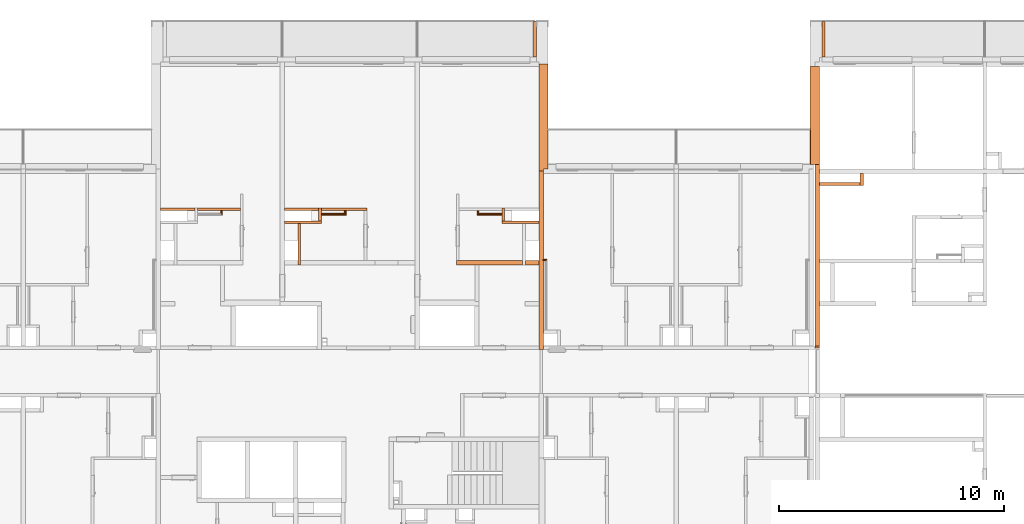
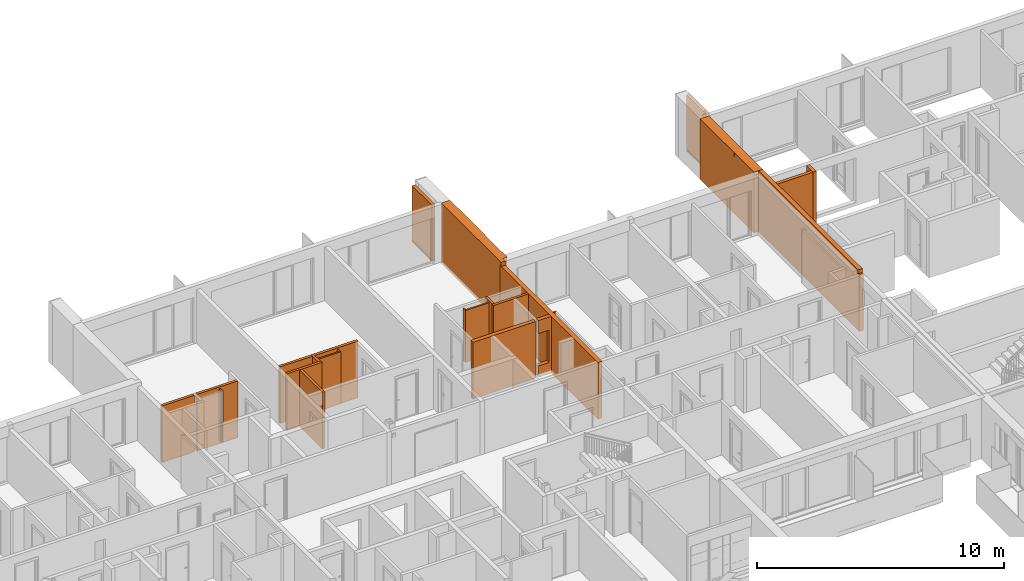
# One storey, part 63 of 66: 22 proxies, 1 opening.
"""IFC2X3 building model written with IfcOpenShell, lengths in millimetres."""

from ifc_helpers import new_model, entity, si_unit, converted_unit, derived_unit, money_unit, direction, frame, origin_with_axes, origin_2d_with_axis, place, context, subcontext, project, spatial, rectangle, extrude, faceted_brep, material, material_list, type_object, element, save


model = new_model("IFC2X3")

# Units and contexts
model_context = context("Model", 3, precision=0.01, world=origin_with_axes(), true_north=direction((0.34421633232, 0.938890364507)))
body_context = subcontext(model_context, "Body", "Model", "MODEL_VIEW")
ifc_project = project(units=[si_unit("LENGTHUNIT", "METRE", prefix="MILLI"), si_unit("AREAUNIT", "SQUARE_METRE"), si_unit("VOLUMEUNIT", "CUBIC_METRE"), converted_unit("PLANEANGLEUNIT", "DEGREE", entity("IfcPlaneAngleMeasure", 0.0174532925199), si_unit("PLANEANGLEUNIT", "RADIAN"), dimensions=[0, 0, 0, 0, 0, 0, 0]), si_unit("SOLIDANGLEUNIT", "STERADIAN"), money_unit("USD"), converted_unit("TIMEUNIT", "Year", entity("IfcTimeMeasure", 31556926.0), si_unit("TIMEUNIT", "SECOND"), dimensions=[0, 0, 1, 0, 0, 0, 0]), si_unit("MASSUNIT", "GRAM", prefix="KILO"), si_unit("THERMODYNAMICTEMPERATUREUNIT", "DEGREE_CELSIUS"), si_unit("LUMINOUSINTENSITYUNIT", "LUMEN"), si_unit("ENERGYUNIT", "JOULE", prefix="MEGA"), derived_unit("THERMALCONDUCTANCEUNIT", [(si_unit("POWERUNIT", "WATT"), 1), (si_unit("LENGTHUNIT", "METRE"), -1), (si_unit("THERMODYNAMICTEMPERATUREUNIT", "KELVIN"), -1)]), derived_unit("SPECIFICHEATCAPACITYUNIT", [(si_unit("ENERGYUNIT", "JOULE"), 1), (si_unit("MASSUNIT", "GRAM", prefix="KILO"), -1), (si_unit("THERMODYNAMICTEMPERATUREUNIT", "KELVIN"), -1)]), derived_unit("MASSDENSITYUNIT", [(si_unit("MASSUNIT", "GRAM", prefix="KILO"), 1), (si_unit("VOLUMEUNIT", "CUBIC_METRE"), -1)])], contexts=[model_context])

# Site, building, storey
site_placement = place(None, origin_with_axes())
site = spatial("IfcSite", under=ifc_project, at=site_placement, Name="USTRONIE MORSKIE", CompositionType="ELEMENT")
building_placement = place(site_placement, origin_with_axes())
building = spatial("IfcBuilding", under=site, at=building_placement, Name="Budynek", CompositionType="ELEMENT")
storey_placement = place(building_placement, frame((0.0, 0.0, 10000.0), z_axis=(0.0, 0.0, 1.0), x_axis=(1.0, 0.0, 0.0)))
storey = spatial("IfcBuildingStorey", under=building, at=storey_placement, Name="PIĘTRO 3", CompositionType="ELEMENT", Elevation=10000.0)

# Proxies
ifc_material_1 = material(Name="Bloczki silikatowe")
building_element_proxy_type_1 = type_object("IfcBuildingElementProxyType", Name="Bloczki silikatowe 120", PredefinedType="NOTDEFINED")
proxy_1_placement = place(storey_placement, frame((386497.920919, 743001.199021, -160.0), z_axis=(0.0, 0.0, 1.0), x_axis=(0.0, -1.0, 0.0)))
element("IfcBuildingElementProxy", 1, at=proxy_1_placement, inside=storey, type_object=building_element_proxy_type_1, material=ifc_material_1, Name="SW-04", context=body_context, shape_type="Brep", body=[
    faceted_brep([(509.999084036, 60.0, 0.0), (509.999084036, -60.0, 0.0), (-59.9999999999, -60.0, 0.0), (-59.9999999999, 60.0, 0.0), (509.999084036, 60.0, 2800.0), (509.999084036, -60.0, 2800.0), (-59.9999999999, -60.0, 2800.0), (-59.9999999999, 60.0, 2800.0)], [[[0, 1, 2, 3]], [[1, 0, 4, 5]], [[1, 5, 6, 2]], [[7, 3, 2, 6]], [[4, 0, 3, 7]], [[5, 4, 7, 6]]]),
])
proxy_2_placement = place(storey_placement, frame((385577.924326, 742431.199937, -160.0), z_axis=(0.0, 0.0, 1.0), x_axis=(0.0, -1.0, 0.0)))
element("IfcBuildingElementProxy", 2, at=proxy_2_placement, inside=storey, type_object=building_element_proxy_type_1, material=ifc_material_1, Name="SW-04", context=body_context, shape_type="Brep", body=[
    faceted_brep([(1890.00090117, 60.0, 0.0), (1890.00090117, -60.0, 0.0), (59.9999999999, -60.0, 0.0), (59.9999999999, 60.0, 0.0), (1890.00090117, 60.0, 2800.0), (1890.00090117, -60.0, 2800.0), (59.9999999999, -60.0, 2800.0), (59.9999999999, 60.0, 2800.0)], [[[0, 1, 2, 3]], [[1, 0, 4, 5]], [[1, 5, 6, 2]], [[7, 3, 2, 6]], [[4, 0, 3, 7]], [[5, 4, 7, 6]]]),
])
proxy_3_placement = place(storey_placement, frame((388517.920919, 743001.199021, -160.0), z_axis=(0.0, 0.0, 1.0), x_axis=(-1.0, 0.0, 0.0)))
element("IfcBuildingElementProxy", 3, at=proxy_3_placement, inside=storey, type_object=building_element_proxy_type_1, material=ifc_material_1, Name="SW-04", context=body_context, shape_type="Brep", body=[
    faceted_brep([(3600.0, -59.9999999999, 2800.0), (2080.0, -59.9999999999, 2800.0), (2080.0, -59.9999999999, 0.0), (3600.0, -59.9999999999, 0.0), (3600.0, 59.9999999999, 2800.0), (2080.0, 59.9999999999, 2800.0), (2080.0, 59.9999999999, 0.0), (3600.0, 59.9999999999, 0.0)], [[[0, 1, 2, 3]], [[4, 5, 1, 0]], [[2, 1, 5, 6]], [[7, 3, 2, 6]], [[7, 4, 0, 3]], [[6, 5, 4, 7]]]),
    faceted_brep([(1960.0, -59.9999999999, 0.0), (1960.0, -59.9999999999, 2800.0), (-60.0, -59.9999999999, 2800.0), (-60.0, -59.9999999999, 0.0), (1960.0, 59.9999999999, 0.0), (1960.0, 59.9999999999, 2800.0), (-60.0, 59.9999999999, 2800.0), (-60.0, 59.9999999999, 0.0)], [[[0, 1, 2, 3]], [[4, 5, 1, 0]], [[5, 6, 2, 1]], [[3, 2, 6, 7]], [[3, 7, 4, 0]], [[7, 6, 5, 4]]]),
])
proxy_4_placement = place(storey_placement, frame((396317.920919, 742431.199937, -160.0), z_axis=(0.0, 0.0, 1.0), x_axis=(-1.0, 0.0, 0.0)))
element("IfcBuildingElementProxy", 4, at=proxy_4_placement, inside=storey, type_object=building_element_proxy_type_1, material=ifc_material_1, Name="SW-04", context=body_context, shape_type="Brep", body=[
    faceted_brep([(1740.0, -59.9999999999, 2800.0), (1740.0, 59.9999999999, 2800.0), (100.00285023, 59.9999999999, 2800.0), (100.002703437, -59.9999999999, 2800.0), (1740.0, -59.9999999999, 0.0), (1740.0, 59.9999999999, 0.0), (100.00285023, 59.9999999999, 0.0), (100.002703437, -59.9999999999, 0.0)], [[[0, 1, 2, 3]], [[1, 0, 4, 5]], [[1, 5, 6, 2]], [[7, 3, 2, 6]], [[4, 0, 3, 7]], [[5, 4, 7, 6]]]),
])
proxy_5_placement = place(storey_placement, frame((383017.920919, 743001.199021, -160.0), z_axis=(0.0, 0.0, 1.0), x_axis=(-1.0, 0.0, 0.0)))
element("IfcBuildingElementProxy", 5, at=proxy_5_placement, inside=storey, type_object=building_element_proxy_type_1, material=ifc_material_1, Name="SW-04", context=body_context, shape_type="Brep", body=[
    faceted_brep([(3600.0, -59.9999999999, 2800.0), (2080.0, -59.9999999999, 2800.0), (2080.0, -59.9999999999, 0.0), (3600.0, -59.9999999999, 0.0), (3600.0, 59.9999999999, 2800.0), (2080.0, 59.9999999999, 2800.0), (2080.0, 59.9999999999, 0.0), (3600.0, 59.9999999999, 0.0)], [[[0, 1, 2, 3]], [[4, 5, 1, 0]], [[2, 1, 5, 6]], [[7, 3, 2, 6]], [[7, 4, 0, 3]], [[6, 5, 4, 7]]]),
    faceted_brep([(1960.0, -59.9999999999, 0.0), (1960.0, -59.9999999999, 2800.0), (60.0, -59.9999999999, 2800.0), (60.0, -59.9999999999, 0.0), (1960.0, 59.9999999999, 0.0), (1960.0, 59.9999999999, 2800.0), (60.0, 59.9999999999, 2800.0), (60.0, 59.9999999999, 0.0)], [[[0, 1, 2, 3]], [[4, 5, 1, 0]], [[5, 6, 2, 1]], [[3, 2, 6, 7]], [[3, 7, 4, 0]], [[7, 6, 5, 4]]]),
])
proxy_6_placement = place(storey_placement, frame((384817.920919, 742431.199937, -160.0), z_axis=(0.0, 0.0, 1.0), x_axis=(1.0, 0.0, 0.0)))
element("IfcBuildingElementProxy", 6, at=proxy_6_placement, inside=storey, type_object=building_element_proxy_type_1, material=ifc_material_1, Name="SW-04", context=body_context, shape_type="Brep", body=[
    faceted_brep([(1740.0, 59.9999999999, 0.0), (1740.0, -59.9999999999, 0.0), (100.0, -59.9999999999, 0.0), (100.0, 59.9999999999, 0.0), (1740.0, 59.9999999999, 2800.0), (1740.0, -59.9999999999, 2800.0), (100.0, -59.9999999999, 2800.0), (100.0, 59.9999999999, 2800.0)], [[[0, 1, 2, 3]], [[1, 0, 4, 5]], [[1, 5, 6, 2]], [[7, 3, 2, 6]], [[4, 0, 3, 7]], [[5, 4, 7, 6]]]),
])
proxy_7_placement = place(storey_placement, frame((394637.920919, 743001.199021, -160.0), z_axis=(0.0, 0.0, 1.0), x_axis=(0.0, -1.0, 0.0)))
element("IfcBuildingElementProxy", 7, at=proxy_7_placement, inside=storey, type_object=building_element_proxy_type_1, material=ifc_material_1, Name="SW-04", context=body_context, shape_type="Brep", body=[
    faceted_brep([(509.999084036, -60.0, 2800.0), (509.999084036, 60.0, 2800.0), (-59.9999999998, 60.0, 2800.0), (-59.9999999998, -60.0, 2800.0), (509.999084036, -60.0, 0.0), (509.999084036, 60.0, 0.0), (-59.9999999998, 60.0, 0.0), (-59.9999999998, -60.0, 0.0)], [[[0, 1, 2, 3]], [[1, 0, 4, 5]], [[1, 5, 6, 2]], [[7, 3, 2, 6]], [[4, 0, 3, 7]], [[5, 4, 7, 6]]]),
])
ifc_material_2 = material(Name="Tynk zewnętrzny")
ifc_material_3 = material(Name="Wełna ELEW")
ifc_material_4 = material(Name="Beton konstrukcyjny B25")
ifc_material_list_1 = material_list([ifc_material_2, ifc_material_3, ifc_material_4])
building_element_proxy_type_2 = type_object("IfcBuildingElementProxyType", Name="20+20 410", PredefinedType="NOTDEFINED")
proxy_8_placement = place(storey_placement, frame((408567.920919, 745001.199036, -160.0), z_axis=(0.0, 0.0, 1.0), x_axis=(0.0, 1.0, 0.0)))
element("IfcBuildingElementProxy", 8, at=proxy_8_placement, inside=storey, type_object=building_element_proxy_type_2, material=ifc_material_list_1, Name="SZ-01", context=body_context, shape_type="Brep", body=[
    faceted_brep([(1599.99509907, 310.0, 3000.0), (1599.99509907, 300.0, 3000.0), (4350.0002527, 300.0, 3000.0), (4350.00026112, 310.0, 3000.0), (1599.99509907, 300.0, 2800.0), (1599.99509907, 310.0, 2800.0), (5.11515736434e-05, 300.0, 2800.0), (0.0, 300.0, 0.0), (4350.0002527, 300.0, 0.0), (4350.00026112, 310.0, 0.0), (0.0, 310.0, 0.0), (6.25622078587e-05, 310.0, 2800.0)], [[[0, 1, 2, 3]], [[4, 1, 0, 5]], [[4, 6, 7, 8, 2, 1]], [[9, 3, 2, 8]], [[5, 0, 3, 9, 10, 11]], [[6, 4, 5, 11]], [[6, 11, 10, 7]], [[10, 9, 8, 7]]]),
    faceted_brep([(0.0, 100.0, 0.0), (4350.00008423, 100.0, 0.0), (4350.00008423, 100.0, 3000.0), (0.0, 100.0, 3000.0), (0.0, 300.0, 0.0), (4350.0002527, 300.0, 0.0), (4350.0002527, 300.0, 3000.0), (0.0, 300.0, 3000.0)], [[[0, 1, 2, 3]], [[4, 5, 1, 0]], [[5, 6, 2, 1]], [[3, 2, 6, 7]], [[7, 4, 0, 3]], [[7, 6, 5, 4]]]),
    faceted_brep([(4349.99991577, -100.0, -8.13678013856e-08), (4349.99991577, -100.0, 3000.0), (0.0, -100.0, 3000.0), (0.0, -100.0, 0.0), (4350.00008423, 100.0, 3000.0), (4350.00008423, 100.0, -4.94591034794e-08), (0.0, 100.0, 3000.0), (0.0, 100.0, 0.0)], [[[0, 1, 2, 3]], [[4, 1, 0, 5]], [[1, 4, 6, 2]], [[7, 3, 2, 6]], [[5, 0, 3, 7]], [[4, 5, 7, 6]]]),
])
ifc_material_list_2 = material_list([ifc_material_4, ifc_material_3, ifc_material_2])
proxy_9_placement = place(storey_placement, frame((396317.920919, 744701.199036, -160.0), z_axis=(0.0, 0.0, 1.0), x_axis=(0.0, 1.0, 0.0)))
element("IfcBuildingElementProxy", 9, at=proxy_9_placement, inside=storey, type_object=building_element_proxy_type_2, material=ifc_material_list_2, Name="SZ-01", context=body_context, shape_type="Brep", body=[
    faceted_brep([(-99.9719477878, 100.0, 3000.0), (-99.9724328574, -100.0, 3000.0), (4750.0, -100.0, 3000.0), (4750.0, 100.0, 3000.0), (-99.9724328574, -100.0, 2800.0), (-99.9719477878, 100.000011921, 2800.0), (0.0, -100.0, 2800.0), (0.0, -100.0, 0.0), (4750.0, -100.0, 0.0), (4750.0, 100.0, 0.0), (0.0, 100.000011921, 0.0), (0.0, 100.000011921, 2800.0)], [[[0, 1, 2, 3]], [[4, 1, 0, 5]], [[1, 4, 6, 7, 8, 2]], [[3, 2, 8, 9]], [[5, 0, 3, 9, 10, 11]], [[4, 5, 11, 6]], [[11, 10, 7, 6]], [[9, 8, 7, 10]]]),
    faceted_brep([(100.000285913, -100.0, 3000.0), (100.000285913, -100.0, 0.0), (100.000285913, -300.00001167, 0.0), (100.000285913, -300.0, 3000.0), (4750.0, -100.0, 0.0), (4750.0, -100.0, 3000.0), (4750.0, -300.0, 0.0), (4750.0, -300.0, 3000.0)], [[[0, 1, 2, 3]], [[4, 1, 0, 5]], [[6, 2, 1, 4]], [[3, 2, 6, 7]], [[5, 0, 3, 7]], [[5, 7, 6, 4]]]),
    faceted_brep([(1899.99509907, -300.0, 3000.0), (1899.99509907, -310.0, 3000.0), (4750.0, -310.0, 3000.0), (4750.0, -300.0, 3000.0), (1899.99509907, -310.0, 2800.0), (1899.99509907, -300.0, 2800.0), (300.01333312, -310.0, 2800.0), (300.01333312, -310.0, 3000.0), (300.000285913, -310.0, 3000.0), (300.000285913, -310.0, 0.0), (4750.0, -310.0, 0.0), (4750.0, -300.0, 0.0), (300.000285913, -300.000005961, 0.0), (300.000285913, -300.0, 3000.0), (300.01334453, -300.0, 3000.0), (300.01334453, -300.0, 2800.0)], [[[0, 1, 2, 3]], [[4, 1, 0, 5]], [[6, 7, 8, 9, 10, 2, 1, 4]], [[3, 2, 10, 11]], [[5, 0, 3, 11, 12, 13, 14, 15]], [[6, 4, 5, 15]], [[14, 7, 6, 15]], [[7, 14, 13, 8]], [[13, 12, 9, 8]], [[10, 9, 12, 11]]]),
])

# Proxy, opening
building_element_proxy_type_3 = type_object("IfcBuildingElementProxyType", Name="Bloczki silikatowe 180", PredefinedType="NOTDEFINED")
proxy_10_placement = place(storey_placement, frame((396317.917408, 740631.199036, -160.0), z_axis=(0.0, 0.0, 1.0), x_axis=(-1.0, 0.0, 0.0)))
proxy_10 = element("IfcBuildingElementProxy", 10, at=proxy_10_placement, inside=storey, type_object=building_element_proxy_type_3, material=ifc_material_1, Name="SW-02", context=body_context, shape_type="Brep", body=[
    faceted_brep([(699.9998961, -90.0, 0.0), (700.0075905, -90.0, 2800.0), (100.006091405, -90.0, 2800.0), (100.00135733, -90.0, 0.0), (699.9998961, 90.0, 0.0), (700.0075905, 90.0, 2800.0), (100.006091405, 90.0, 2800.0), (100.00157752, 90.0, 0.0)], [[[0, 1, 2, 3]], [[4, 5, 1, 0]], [[6, 2, 1, 5]], [[6, 7, 3, 2]], [[3, 7, 4, 0]], [[7, 6, 5, 4]]]),
    faceted_brep([(3760.0060914, -90.0, 0.0), (3760.0060914, -90.0, 2800.0), (819.9998961, -90.0, 2800.0), (819.9998961, -90.0, 0.0), (3760.0060914, 90.0, 0.0), (3760.0060914, 90.0, 2800.0), (819.9998961, 90.0, 2800.0), (819.9998961, 90.0, 0.0)], [[[0, 1, 2, 3]], [[4, 5, 1, 0]], [[5, 6, 2, 1]], [[3, 2, 6, 7]], [[4, 0, 3, 7]], [[7, 6, 5, 4]]]),
])
opening_placement = place(proxy_10_placement, frame((449.998987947, 0.0, 560.0), z_axis=(0.0, 0.0, 1.0), x_axis=(1.0, 0.0, 0.0)))
element("IfcOpeningElement", 11, at=opening_placement, cuts=proxy_10, Name="R.01", context=body_context, shape_type="SweptSolid", body=[
    extrude(rectangle(XDim=500.001816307, YDim=1600.0, at=origin_2d_with_axis()), frame((0.0, 89.9999999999, 800.0), z_axis=(0.0, -1.0, 0.0), x_axis=(1.0, 0.0, 0.0)), (0.0, 0.0, -1.0), 180.0),
    extrude(rectangle(XDim=500.001816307, YDim=1600.0, at=origin_2d_with_axis()), frame((0.0, 89.9999999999, 800.0), z_axis=(0.0, 1.0, 0.0), x_axis=(1.0, 0.0, 0.0)), (0.0, 0.0, -1.0), 180.0),
])

# Proxies
ifc_material_5 = material(Name="Płyta GK")
ifc_material_6 = material(Name="-Pustka powietrzna")
ifc_material_list_3 = material_list([ifc_material_5, ifc_material_5, ifc_material_6])
building_element_proxy_type_4 = type_object("IfcBuildingElementProxyType", Name="330-SD GK 2-warstwy 75", PredefinedType="NOTDEFINED")
proxy_11_placement = place(storey_placement, frame((396317.920919, 740771.202288, -180.0), z_axis=(0.0, 0.0, 1.0), x_axis=(1.0, 0.0, 0.0)))
element("IfcBuildingElementProxy", 12, at=proxy_11_placement, inside=storey, type_object=building_element_proxy_type_4, material=ifc_material_list_3, Name="Ściana-009", context=body_context, shape_type="Brep", body=[
    faceted_brep([(254.977879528, 12.5, 165.0), (254.977879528, 25.0, 165.0), (254.977879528, 25.0, 2820.0), (254.977879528, 12.5, 2820.0), (99.9952231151, 25.0, 165.0), (99.9952078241, 12.5, 165.0), (99.9952231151, 25.0, 2820.0), (99.9952078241, 12.5, 2820.0)], [[[0, 1, 2, 3]], [[4, 1, 0, 5]], [[1, 4, 6, 2]], [[2, 6, 7, 3]], [[5, 0, 3, 7]], [[4, 5, 7, 6]]]),
    faceted_brep([(242.477879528, 0.0, 165.0), (242.477879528, 12.5, 165.0), (242.477879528, 12.5, 2820.0), (242.477879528, 0.0, 2820.0), (99.9952078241, 12.5, 165.0), (99.9951925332, 0.0, 165.0), (99.9952078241, 12.5, 2820.0), (99.9951925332, 0.0, 2820.0)], [[[0, 1, 2, 3]], [[4, 1, 0, 5]], [[1, 4, 6, 2]], [[2, 6, 7, 3]], [[5, 0, 3, 7]], [[4, 5, 7, 6]]]),
    faceted_brep([(229.977879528, -50.0, 180.0), (229.977879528, 0.0, 180.0), (229.977879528, 0.0, 2820.0), (229.977879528, -50.0, 2820.0), (99.9951925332, 0.0, 180.0), (99.9951313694, -50.0, 180.0), (99.9951925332, 0.0, 2820.0), (99.9951313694, -50.0, 2820.0)], [[[0, 1, 2, 3]], [[4, 1, 0, 5]], [[1, 4, 6, 2]], [[2, 6, 7, 3]], [[5, 0, 3, 7]], [[4, 5, 7, 6]]]),
])
ifc_material_list_4 = material_list([ifc_material_6, ifc_material_5, ifc_material_5])
proxy_12_placement = place(storey_placement, frame((387632.920919, 742771.199021, -160.0), z_axis=(0.0, 0.0, 1.0), x_axis=(0.0, 1.0, 0.0)))
element("IfcBuildingElementProxy", 13, at=proxy_12_placement, inside=storey, type_object=building_element_proxy_type_4, material=ifc_material_list_4, Name="Ściana-009", context=body_context, shape_type="Brep", body=[
    faceted_brep([(50.0, 0.0, 160.0), (170.0, 0.0, 160.0), (170.0, 0.0, 2710.0), (50.0, 0.0, 2710.0), (170.0, 50.0, 160.0), (50.0, 50.0, 160.0), (170.0, 50.0, 2710.0), (50.0, 50.0, 2710.0)], [[[0, 1, 2, 3]], [[4, 1, 0, 5]], [[1, 4, 6, 2]], [[2, 6, 7, 3]], [[5, 0, 3, 7]], [[4, 5, 7, 6]]]),
    faceted_brep([(0.0, -12.5, 145.0), (170.0, -12.5, 145.0), (170.0, -12.5, 2710.0), (0.0, -12.5, 2710.0), (170.0, 0.0, 145.0), (0.0, 0.0, 145.0), (170.0, 0.0, 2710.0), (0.0, 0.0, 2710.0)], [[[0, 1, 2, 3]], [[4, 1, 0, 5]], [[1, 4, 6, 2]], [[2, 6, 7, 3]], [[5, 0, 3, 7]], [[4, 5, 7, 6]]]),
    faceted_brep([(-12.5, -25.0, 145.0), (170.0, -25.0, 145.0), (170.0, -25.0, 2710.0), (-12.5, -25.0, 2710.0), (170.0, -12.5, 145.0), (-12.5, -12.5, 145.0), (170.0, -12.5, 2710.0), (-12.5, -12.5, 2710.0)], [[[0, 1, 2, 3]], [[4, 1, 0, 5]], [[1, 4, 6, 2]], [[2, 6, 7, 3]], [[5, 0, 3, 7]], [[4, 5, 7, 6]]]),
])
proxy_13_placement = place(storey_placement, frame((387632.920919, 742771.199021, -160.0), z_axis=(0.0, 0.0, 1.0), x_axis=(-1.0, 0.0, 0.0)))
element("IfcBuildingElementProxy", 14, at=proxy_13_placement, inside=storey, type_object=building_element_proxy_type_4, material=ifc_material_list_3, Name="Ściana-009", context=body_context, shape_type="Brep", body=[
    faceted_brep([(-25.0, 25.0, 145.0), (-25.0, 12.5, 145.0), (-25.0, 12.5, 2710.0), (-25.0, 25.0, 2710.0), (1075.0, 12.5, 145.0), (1075.0, 25.0, 145.0), (1075.0, 12.5, 2710.0), (1075.0, 25.0, 2710.0)], [[[0, 1, 2, 3]], [[4, 1, 0, 5]], [[1, 4, 6, 2]], [[6, 7, 3, 2]], [[5, 0, 3, 7]], [[4, 5, 7, 6]]]),
    faceted_brep([(-12.5, 12.5, 145.0), (-12.5, 0.0, 145.0), (-12.5, 0.0, 2710.0), (-12.5, 12.5, 2710.0), (1075.0, 0.0, 145.0), (1075.0, 12.5, 145.0), (1075.0, 0.0, 2710.0), (1075.0, 12.5, 2710.0)], [[[0, 1, 2, 3]], [[4, 1, 0, 5]], [[1, 4, 6, 2]], [[6, 7, 3, 2]], [[5, 0, 3, 7]], [[4, 5, 7, 6]]]),
    faceted_brep([(0.0, 0.0, 160.0), (0.0, -50.0, 160.0), (0.0, -50.0, 2710.0), (0.0, 0.0, 2710.0), (1075.0, -50.0, 160.0), (1075.0, 0.0, 160.0), (1075.0, -50.0, 2710.0), (1075.0, 0.0, 2710.0)], [[[0, 1, 2, 3]], [[4, 1, 0, 5]], [[1, 4, 6, 2]], [[6, 7, 3, 2]], [[5, 0, 3, 7]], [[4, 5, 7, 6]]]),
])
proxy_14_placement = place(storey_placement, frame((382132.920919, 742771.199021, -160.0), z_axis=(0.0, 0.0, 1.0), x_axis=(0.0, 1.0, 0.0)))
element("IfcBuildingElementProxy", 15, at=proxy_14_placement, inside=storey, type_object=building_element_proxy_type_4, material=ifc_material_list_4, Name="Ściana-009", context=body_context, shape_type="Brep", body=[
    faceted_brep([(50.0, 0.0, 160.0), (170.0, 0.0, 160.0), (170.0, 0.0, 2710.0), (50.0, 0.0, 2710.0), (170.0, 50.0, 160.0), (50.0, 50.0, 160.0), (170.0, 50.0, 2710.0), (50.0, 50.0, 2710.0)], [[[0, 1, 2, 3]], [[4, 1, 0, 5]], [[1, 4, 6, 2]], [[2, 6, 7, 3]], [[5, 0, 3, 7]], [[4, 5, 7, 6]]]),
    faceted_brep([(0.0, -12.5, 145.0), (170.0, -12.5, 145.0), (170.0, -12.5, 2710.0), (0.0, -12.5, 2710.0), (170.0, 0.0, 145.0), (0.0, 0.0, 145.0), (170.0, 0.0, 2710.0), (0.0, 0.0, 2710.0)], [[[0, 1, 2, 3]], [[4, 1, 0, 5]], [[1, 4, 6, 2]], [[2, 6, 7, 3]], [[5, 0, 3, 7]], [[4, 5, 7, 6]]]),
    faceted_brep([(-12.5, -25.0, 145.0), (170.0, -25.0, 145.0), (170.0, -25.0, 2710.0), (-12.5, -25.0, 2710.0), (170.0, -12.5, 145.0), (-12.5, -12.5, 145.0), (170.0, -12.5, 2710.0), (-12.5, -12.5, 2710.0)], [[[0, 1, 2, 3]], [[4, 1, 0, 5]], [[1, 4, 6, 2]], [[2, 6, 7, 3]], [[5, 0, 3, 7]], [[4, 5, 7, 6]]]),
])
proxy_15_placement = place(storey_placement, frame((393502.920919, 742771.199021, -160.0), z_axis=(0.0, 0.0, 1.0), x_axis=(0.0, 1.0, 0.0)))
element("IfcBuildingElementProxy", 16, at=proxy_15_placement, inside=storey, type_object=building_element_proxy_type_4, material=ifc_material_list_3, Name="Ściana-009", context=body_context, shape_type="Brep", body=[
    faceted_brep([(-12.5, 12.5, 145.0), (170.0, 12.5, 145.0), (170.0, 12.5, 2710.0), (-12.5, 12.5, 2710.0), (170.0, 25.0, 145.0), (-12.5, 25.0, 145.0), (170.0, 25.0, 2710.0), (-12.5, 25.0, 2710.0)], [[[0, 1, 2, 3]], [[4, 1, 0, 5]], [[1, 4, 6, 2]], [[2, 6, 7, 3]], [[5, 0, 3, 7]], [[4, 5, 7, 6]]]),
    faceted_brep([(0.0, 0.0, 145.0), (170.0, 0.0, 145.0), (170.0, 0.0, 2710.0), (0.0, 0.0, 2710.0), (170.0, 12.5, 145.0), (0.0, 12.5, 145.0), (170.0, 12.5, 2710.0), (0.0, 12.5, 2710.0)], [[[0, 1, 2, 3]], [[4, 1, 0, 5]], [[1, 4, 6, 2]], [[2, 6, 7, 3]], [[5, 0, 3, 7]], [[4, 5, 7, 6]]]),
    faceted_brep([(50.0, -50.0, 160.0), (170.0, -50.0, 160.0), (170.0, -50.0, 2710.0), (50.0, -50.0, 2710.0), (170.0, 0.0, 160.0), (50.0, 0.0, 160.0), (170.0, 0.0, 2710.0), (50.0, 0.0, 2710.0)], [[[0, 1, 2, 3]], [[4, 1, 0, 5]], [[1, 4, 6, 2]], [[2, 6, 7, 3]], [[5, 0, 3, 7]], [[4, 5, 7, 6]]]),
])
proxy_16_placement = place(storey_placement, frame((393502.920919, 742771.199021, -160.0), z_axis=(0.0, 0.0, 1.0), x_axis=(1.0, 0.0, 0.0)))
element("IfcBuildingElementProxy", 17, at=proxy_16_placement, inside=storey, type_object=building_element_proxy_type_4, material=ifc_material_list_4, Name="Ściana-009", context=body_context, shape_type="Brep", body=[
    faceted_brep([(1075.0, 0.0, 160.0), (1075.0, 50.0, 160.0), (1075.0, 50.0, 2710.0), (1075.0, 0.0, 2710.0), (0.0, 50.0, 160.0), (0.0, 0.0, 160.0), (0.0, 50.0, 2710.0), (0.0, 0.0, 2710.0)], [[[0, 1, 2, 3]], [[4, 1, 0, 5]], [[1, 4, 6, 2]], [[3, 2, 6, 7]], [[5, 0, 3, 7]], [[4, 5, 7, 6]]]),
    faceted_brep([(1075.0, -12.5, 145.0), (1075.0, 0.0, 145.0), (1075.0, 0.0, 2710.0), (1075.0, -12.5, 2710.0), (-12.5, 0.0, 145.0), (-12.5, -12.5, 145.0), (-12.5, 0.0, 2710.0), (-12.5, -12.5, 2710.0)], [[[0, 1, 2, 3]], [[4, 1, 0, 5]], [[1, 4, 6, 2]], [[3, 2, 6, 7]], [[5, 0, 3, 7]], [[4, 5, 7, 6]]]),
    faceted_brep([(1075.0, -25.0, 145.0), (1075.0, -12.5, 145.0), (1075.0, -12.5, 2710.0), (1075.0, -25.0, 2710.0), (-25.0, -12.5, 145.0), (-25.0, -25.0, 145.0), (-25.0, -12.5, 2710.0), (-25.0, -25.0, 2710.0)], [[[0, 1, 2, 3]], [[4, 1, 0, 5]], [[1, 4, 6, 2]], [[3, 2, 6, 7]], [[5, 0, 3, 7]], [[4, 5, 7, 6]]]),
])
building_element_proxy_type_5 = type_object("IfcBuildingElementProxyType", Name="Bloczki silikatowe 150", PredefinedType="NOTDEFINED")
proxy_17_placement = place(storey_placement, frame((410537.940088, 744141.199036, -160.0), z_axis=(0.0, 0.0, 1.0), x_axis=(0.0, 1.0, 0.0)))
element("IfcBuildingElementProxy", 18, at=proxy_17_placement, inside=storey, type_object=building_element_proxy_type_5, material=ifc_material_1, Name="SW-03", context=body_context, shape_type="Brep", body=[
    faceted_brep([(459.999999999, -90.0, 2800.0), (459.999999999, 60.0, 2800.0), (-90.0, 60.0, 2800.0), (-90.0, -90.0, 2800.0), (459.999999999, -90.0, 0.0), (459.999999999, 60.0, 0.0), (-90.0, 60.0, 0.0), (-90.0, -90.0, 0.0)], [[[0, 1, 2, 3]], [[1, 0, 4, 5]], [[1, 5, 6, 2]], [[7, 3, 2, 6]], [[4, 0, 3, 7]], [[5, 4, 7, 6]]]),
])
proxy_18_placement = place(storey_placement, frame((410537.940088, 744141.199036, -160.0), z_axis=(0.0, 0.0, 1.0), x_axis=(-1.0, 0.0, 0.0)))
element("IfcBuildingElementProxy", 19, at=proxy_18_placement, inside=storey, type_object=building_element_proxy_type_5, material=ifc_material_1, Name="SW-03", context=body_context, shape_type="Brep", body=[
    faceted_brep([(1870.01916874, 90.0, 0.0), (1870.01916874, -59.9999999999, 0.0), (60.0, -59.9999999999, 0.0), (60.0, 90.0, 0.0), (1870.01916874, 90.0, 2800.0), (1870.01916874, -59.9999999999, 2800.0), (60.0, -59.9999999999, 2800.0), (60.0, 90.0, 2800.0)], [[[0, 1, 2, 3]], [[1, 0, 4, 5]], [[1, 5, 6, 2]], [[7, 3, 2, 6]], [[4, 0, 3, 7]], [[5, 4, 7, 6]]]),
])
building_element_proxy_type_6 = type_object("IfcBuildingElementProxyType", Name="Beton konstrukcyjny B25 200", PredefinedType="NOTDEFINED")
proxy_19_placement = place(storey_placement, frame((396317.911316, 736851.199036, -160.0), z_axis=(0.0, 0.0, 1.0), x_axis=(1.2232750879e-06, 0.999999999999, 0.0)))
element("IfcBuildingElementProxy", 20, at=proxy_19_placement, inside=storey, type_object=building_element_proxy_type_6, material=ifc_material_4, Name="SW-01", context=body_context, shape_type="Brep", body=[
    faceted_brep([(7850.00000001, -100.0, 0.0), (-79.9998776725, -100.0, 0.0), (-80.0001223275, 100.0, 0.0), (7850.00000001, 100.0, 0.0), (7850.00000001, -100.0, 2800.0), (-79.9998776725, -100.0, 2800.0), (-80.0001223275, 100.0, 2800.0), (7850.00000001, 100.0, 2800.0)], [[[0, 1, 2, 3]], [[4, 5, 1, 0]], [[6, 2, 1, 5]], [[3, 2, 6, 7]], [[7, 4, 0, 3]], [[7, 6, 5, 4]]]),
])
proxy_20_placement = place(storey_placement, frame((408567.920919, 745001.199036, -160.0), z_axis=(0.0, 0.0, 1.0), x_axis=(0.0, -1.0, 0.0)))
element("IfcBuildingElementProxy", 21, at=proxy_20_placement, inside=storey, type_object=building_element_proxy_type_6, material=ifc_material_4, Name="SW-01", context=body_context, shape_type="Brep", body=[
    faceted_brep([(0.0, -100.0, 3000.0), (8070.0, -100.0, 3000.0), (8070.0, 100.0, 3000.0), (0.0, 100.0, 3000.0), (8150.0, -100.0, 2800.0), (8070.0, -100.0, 2800.0), (0.0, -100.0, 0.0), (8150.0, -100.0, 0.0), (8070.0, 100.0, 2800.0), (8150.0, 100.0, 2800.0), (8150.0, 100.0, 0.0), (0.0, 100.0, 0.0)], [[[0, 1, 2, 3]], [[4, 5, 1, 0, 6, 7]], [[5, 8, 2, 1]], [[2, 8, 9, 10, 11, 3]], [[11, 6, 0, 3]], [[4, 9, 8, 5]], [[10, 7, 6, 11]], [[10, 9, 4, 7]]]),
])
ifc_material_7 = material(Name="Laminat")
building_element_proxy_type_7 = type_object("IfcBuildingElementProxyType", Name="Laminat 150", PredefinedType="NOTDEFINED")
proxy_21_placement = place(storey_placement, frame((408852.787991, 749761.04617, -160.0), z_axis=(0.0, 0.0, 1.0), x_axis=(-9.14543759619e-06, 0.999999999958, 0.0)))
element("IfcBuildingElementProxy", 22, at=proxy_21_placement, inside=storey, type_object=building_element_proxy_type_7, material=ifc_material_7, Name="SW-03", context=body_context, shape_type="Brep", body=[
    faceted_brep([(0.0, -75.0, 9.99999740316), (0.0, 75.0, 9.99999742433), (1589.99972369, 75.0, 10.0000009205), (1589.99446794, -75.0, 9.99999972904), (0.0, -75.0, 2789.99999183), (-0.000681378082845, 74.9999999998, 2789.99999183), (1589.99446794, 74.9999999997, 2789.99999183), (1547.49980813, 75.0, 84.9999951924), (1547.49980813, 75.0, 14.9999951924), (1572.49971536, 75.0, 14.9999951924), (1572.49971536, 75.0, 109.999995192), (4.99980812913, 75.0, 109.999995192), (4.99980812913, 75.0, 84.9999951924), (1589.99446794, -75.0, 2789.99999183), (1572.49971536, -75.0, 14.9999951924), (1547.49980813, -75.0, 14.9999951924), (1547.49980813, -75.0, 84.9999951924), (4.99980812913, -75.0, 84.9999951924), (4.99980812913, -75.0, 109.999995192), (1572.49971536, -75.0, 109.999995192)], [[[0, 1, 2, 3]], [[4, 5, 1, 0]], [[2, 1, 5, 6], [7, 8, 9, 10, 11, 12]], [[3, 2, 6, 13]], [[0, 3, 13, 4], [14, 15, 16, 17, 18, 19]], [[13, 6, 5, 4]], [[15, 8, 7, 16]], [[14, 9, 8, 15]], [[19, 10, 9, 14]], [[18, 11, 10, 19]], [[17, 12, 11, 18]], [[16, 7, 12, 17]]]),
])
proxy_22_placement = place(storey_placement, frame((396032.78799, 749761.196429, -160.0), z_axis=(0.0, 0.0, 1.0), x_axis=(-9.14543764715e-06, 0.999999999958, 0.0)))
element("IfcBuildingElementProxy", 23, at=proxy_22_placement, inside=storey, type_object=building_element_proxy_type_7, material=ifc_material_7, Name="SW-03", context=body_context, shape_type="Brep", body=[
    faceted_brep([(0.0, -75.0, 9.99999623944), (0.0, 75.0, 9.99999510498), (1589.99972369, 75.0, 10.0000009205), (1589.99972369, -75.0, 10.0000009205), (-0.000681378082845, -75.0000000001, 2789.99999183), (0.0, 75.0, 2789.99999183), (1589.99981684, 75.0, 2789.99999183), (4.99980812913, 75.0, 109.999995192), (4.99980812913, 75.0, 84.9999951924), (1547.49980813, 75.0, 84.9999951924), (1547.49980813, 75.0, 14.9999951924), (1572.49971536, 75.0, 14.9999951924), (1572.49971536, 75.0, 109.999995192), (1589.99981684, -75.0, 2789.99999183), (1547.49980813, -75.0, 84.9999951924), (4.99980812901, -75.0, 84.9999951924), (4.99980812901, -75.0, 109.999995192), (1572.49971536, -75.0, 109.999995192), (1572.49971536, -75.0, 14.9999951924), (1547.49980813, -75.0, 14.9999951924)], [[[0, 1, 2, 3]], [[4, 5, 1, 0]], [[6, 2, 1, 5], [7, 8, 9, 10, 11, 12]], [[3, 2, 6, 13]], [[0, 3, 13, 4], [14, 15, 16, 17, 18, 19]], [[13, 6, 5, 4]], [[15, 8, 7, 16]], [[14, 9, 8, 15]], [[19, 10, 9, 14]], [[18, 11, 10, 19]], [[17, 12, 11, 18]], [[16, 7, 12, 17]]]),
])

save(model, "model.ifc")
